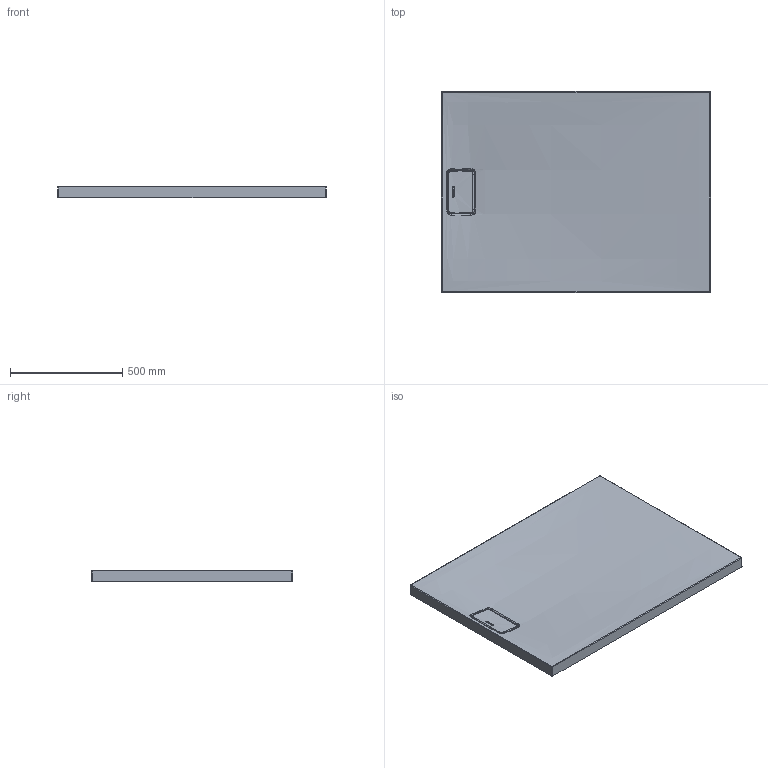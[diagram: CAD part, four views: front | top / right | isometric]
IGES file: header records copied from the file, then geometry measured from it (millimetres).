
Global section: file name: No Iges File Name specified; native system: Autodesk Inventor 2011; preprocessor: AutoDesk Inventor Iges Exporter R2011; author: Administrator; date: 20150623.083012; units: millimetre
Bounding box: 1198 x 898 x 50.01 mm (x, y, z)
Volume: 14347959.3 mm3; surface area: 2690529.1 mm2
Topology: 2 solids, 2 shells, 877 faces, 2222 edges, 1374 vertices
Faces by surface type: bspline 380, plane 283, revolution 96, cylinder 91, torus 14, sphere 10, cone 3
